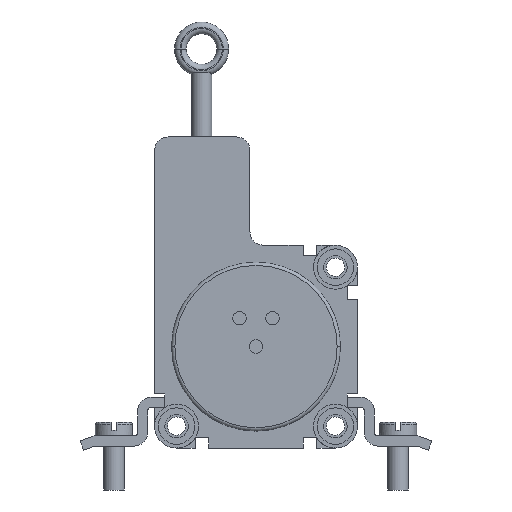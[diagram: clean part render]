
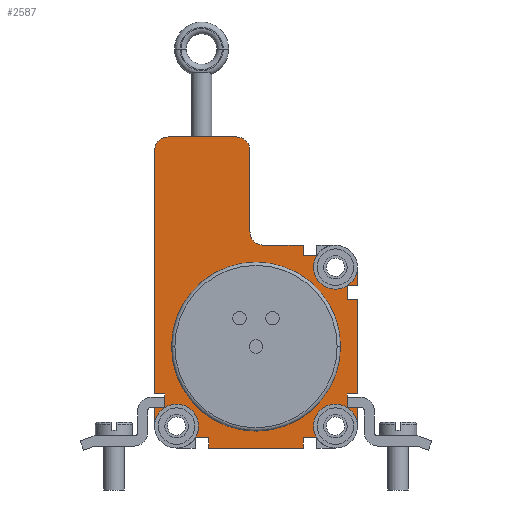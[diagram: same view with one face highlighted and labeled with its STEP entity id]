
A CAD part, left-side view. The second image highlights one B-rep face of the part: STEP entity #2587.
In plain terms, the highlighted planar face has unit normal (-1, 0, 0) as drawn and (0, 0, 1) by its records, which use the part's own axes.
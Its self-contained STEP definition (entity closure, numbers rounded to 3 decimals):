
#2=DIRECTION('',(1.,-0.001,0.));
#3=VECTOR('',#2,2.003);
#4=CARTESIAN_POINT('',(7.,13.5,0.));
#5=LINE('',#4,#3);
#6=CARTESIAN_POINT('',(11.75,11.75,0.));
#7=DIRECTION('',(0.,0.,1.));
#8=DIRECTION('',(-0.843,0.538,0.));
#9=AXIS2_PLACEMENT_3D('',#6,#7,#8);
#11=CARTESIAN_POINT('',(11.75,11.75,0.));
#12=DIRECTION('',(0.,0.,1.));
#13=DIRECTION('',(-1.,0.,0.));
#14=AXIS2_PLACEMENT_3D('',#11,#12,#13);
#16=DIRECTION('',(0.,1.,0.));
#17=VECTOR('',#16,2.75);
#18=CARTESIAN_POINT('',(15.,9.,0.));
#19=LINE('',#18,#17);
#20=DIRECTION('',(-1.,0.,0.));
#21=VECTOR('',#20,1.5);
#22=CARTESIAN_POINT('',(15.,9.,0.));
#23=LINE('',#22,#21);
#24=DIRECTION('',(0.,-1.,0.));
#25=VECTOR('',#24,2.);
#26=CARTESIAN_POINT('',(13.5,9.,0.));
#27=LINE('',#26,#25);
#28=DIRECTION('',(-1.,0.,0.));
#29=VECTOR('',#28,1.5);
#30=CARTESIAN_POINT('',(15.,7.,0.));
#31=LINE('',#30,#29);
#32=DIRECTION('',(0.,1.,0.));
#33=VECTOR('',#32,14.);
#34=CARTESIAN_POINT('',(15.,-7.,0.));
#35=LINE('',#34,#33);
#36=DIRECTION('',(-1.,0.,0.));
#37=VECTOR('',#36,1.5);
#38=CARTESIAN_POINT('',(15.,-7.,0.));
#39=LINE('',#38,#37);
#40=DIRECTION('',(0.,-1.,0.));
#41=VECTOR('',#40,2.);
#42=CARTESIAN_POINT('',(13.5,-7.,0.));
#43=LINE('',#42,#41);
#44=DIRECTION('',(-1.,0.,0.));
#45=VECTOR('',#44,1.5);
#46=CARTESIAN_POINT('',(15.,-9.,0.));
#47=LINE('',#46,#45);
#48=DIRECTION('',(0.,1.,0.));
#49=VECTOR('',#48,2.75);
#50=CARTESIAN_POINT('',(15.,-11.75,0.));
#51=LINE('',#50,#49);
#52=CARTESIAN_POINT('',(11.75,-11.75,0.));
#53=DIRECTION('',(0.,0.,1.));
#54=DIRECTION('',(1.,0.,0.));
#55=AXIS2_PLACEMENT_3D('',#52,#53,#54);
#57=CARTESIAN_POINT('',(11.75,-11.75,0.));
#58=DIRECTION('',(0.,0.,1.));
#59=DIRECTION('',(-1.,0.,0.));
#60=AXIS2_PLACEMENT_3D('',#57,#58,#59);
#62=DIRECTION('',(-1.,-0.001,0.));
#63=VECTOR('',#62,2.003);
#64=CARTESIAN_POINT('',(9.003,-13.497,0.));
#65=LINE('',#64,#63);
#66=DIRECTION('',(0.,1.,0.));
#67=VECTOR('',#66,1.5);
#68=CARTESIAN_POINT('',(7.,-15.,0.));
#69=LINE('',#68,#67);
#70=DIRECTION('',(1.,0.,0.));
#71=VECTOR('',#70,14.);
#72=CARTESIAN_POINT('',(-7.,-15.,0.));
#73=LINE('',#72,#71);
#74=DIRECTION('',(0.,1.,0.));
#75=VECTOR('',#74,1.5);
#76=CARTESIAN_POINT('',(-7.,-15.,0.));
#77=LINE('',#76,#75);
#78=DIRECTION('',(-1.,0.001,0.));
#79=VECTOR('',#78,2.003);
#80=CARTESIAN_POINT('',(-7.,-13.5,0.));
#81=LINE('',#80,#79);
#82=CARTESIAN_POINT('',(-11.75,-11.75,0.));
#83=DIRECTION('',(0.,0.,1.));
#84=DIRECTION('',(0.843,-0.538,0.));
#85=AXIS2_PLACEMENT_3D('',#82,#83,#84);
#87=CARTESIAN_POINT('',(-11.75,-11.75,0.));
#88=DIRECTION('',(0.,0.,1.));
#89=DIRECTION('',(1.,0.,0.));
#90=AXIS2_PLACEMENT_3D('',#87,#88,#89);
#92=DIRECTION('',(0.,-1.,0.));
#93=VECTOR('',#92,2.75);
#94=CARTESIAN_POINT('',(-15.,-9.,0.));
#95=LINE('',#94,#93);
#96=DIRECTION('',(1.,0.,0.));
#97=VECTOR('',#96,1.5);
#98=CARTESIAN_POINT('',(-15.,-9.,0.));
#99=LINE('',#98,#97);
#100=DIRECTION('',(0.,1.,0.));
#101=VECTOR('',#100,2.);
#102=CARTESIAN_POINT('',(-13.5,-9.,0.));
#103=LINE('',#102,#101);
#104=DIRECTION('',(1.,0.,0.));
#105=VECTOR('',#104,1.5);
#106=CARTESIAN_POINT('',(-15.,-7.,0.));
#107=LINE('',#106,#105);
#108=DIRECTION('',(0.,-1.,0.));
#109=VECTOR('',#108,36.);
#110=CARTESIAN_POINT('',(-15.,29.,0.));
#111=LINE('',#110,#109);
#112=CARTESIAN_POINT('',(-13.,29.,0.));
#113=DIRECTION('',(0.,0.,1.));
#114=DIRECTION('',(0.,1.,0.));
#115=AXIS2_PLACEMENT_3D('',#112,#113,#114);
#117=DIRECTION('',(-1.,0.,0.));
#118=VECTOR('',#117,10.1);
#119=CARTESIAN_POINT('',(-2.9,31.,0.));
#120=LINE('',#119,#118);
#121=CARTESIAN_POINT('',(-2.9,29.,0.));
#122=DIRECTION('',(0.,0.,1.));
#123=DIRECTION('',(1.,0.,0.));
#124=AXIS2_PLACEMENT_3D('',#121,#122,#123);
#126=DIRECTION('',(0.,1.,0.));
#127=VECTOR('',#126,12.);
#128=CARTESIAN_POINT('',(-0.9,17.,0.));
#129=LINE('',#128,#127);
#130=DIRECTION('',(-1.,0.,0.));
#131=VECTOR('',#130,5.9);
#132=CARTESIAN_POINT('',(7.,15.,0.));
#133=LINE('',#132,#131);
#134=DIRECTION('',(0.,-1.,0.));
#135=VECTOR('',#134,1.5);
#136=CARTESIAN_POINT('',(7.,15.,0.));
#137=LINE('',#136,#135);
#138=CARTESIAN_POINT('',(0.,0.,0.));
#139=DIRECTION('',(0.,0.,1.));
#140=DIRECTION('',(1.,0.,0.));
#141=AXIS2_PLACEMENT_3D('',#138,#139,#140);
#143=CARTESIAN_POINT('',(0.,0.,0.));
#144=DIRECTION('',(0.,0.,1.));
#145=DIRECTION('',(-1.,0.,0.));
#146=AXIS2_PLACEMENT_3D('',#143,#144,#145);
#165=CARTESIAN_POINT('',(1.1,17.,0.));
#166=DIRECTION('',(0.,0.,-1.));
#167=DIRECTION('',(0.,-1.,0.));
#168=AXIS2_PLACEMENT_3D('',#165,#166,#167);
#1983=CARTESIAN_POINT('',(-0.9,17.,0.));
#1985=VERTEX_POINT('',#1983);
#1987=CARTESIAN_POINT('',(1.1,15.,0.));
#1989=VERTEX_POINT('',#1987);
#1994=CARTESIAN_POINT('',(-0.9,29.,0.));
#1995=VERTEX_POINT('',#1994);
#1996=CARTESIAN_POINT('',(-2.9,31.,0.));
#1997=VERTEX_POINT('',#1996);
#2002=CARTESIAN_POINT('',(-13.,31.,0.));
#2003=VERTEX_POINT('',#2002);
#2004=CARTESIAN_POINT('',(-15.,29.,0.));
#2005=VERTEX_POINT('',#2004);
#2042=CARTESIAN_POINT('',(12.,0.,0.));
#2043=CARTESIAN_POINT('',(-12.,0.,0.));
#2044=VERTEX_POINT('',#2042);
#2045=VERTEX_POINT('',#2043);
#2058=CARTESIAN_POINT('',(8.5,11.75,0.));
#2059=CARTESIAN_POINT('',(15.,11.75,0.));
#2060=VERTEX_POINT('',#2058);
#2061=VERTEX_POINT('',#2059);
#2062=CARTESIAN_POINT('',(15.,-11.75,0.));
#2063=CARTESIAN_POINT('',(8.5,-11.75,0.));
#2064=VERTEX_POINT('',#2062);
#2065=VERTEX_POINT('',#2063);
#2066=CARTESIAN_POINT('',(-8.5,-11.75,0.));
#2067=CARTESIAN_POINT('',(-15.,-11.75,0.));
#2068=VERTEX_POINT('',#2066);
#2069=VERTEX_POINT('',#2067);
#2112=CARTESIAN_POINT('',(7.,15.,0.));
#2113=CARTESIAN_POINT('',(7.,13.5,0.));
#2114=VERTEX_POINT('',#2112);
#2115=VERTEX_POINT('',#2113);
#2116=CARTESIAN_POINT('',(9.003,13.497,0.));
#2117=VERTEX_POINT('',#2116);
#2121=CARTESIAN_POINT('',(9.003,-13.497,0.));
#2123=VERTEX_POINT('',#2121);
#2124=CARTESIAN_POINT('',(7.,-13.5,0.));
#2125=VERTEX_POINT('',#2124);
#2126=CARTESIAN_POINT('',(7.,-15.,0.));
#2127=VERTEX_POINT('',#2126);
#2128=CARTESIAN_POINT('',(-7.,-15.,0.));
#2129=CARTESIAN_POINT('',(-7.,-13.5,0.));
#2130=VERTEX_POINT('',#2128);
#2131=VERTEX_POINT('',#2129);
#2132=CARTESIAN_POINT('',(-9.003,-13.497,0.));
#2133=VERTEX_POINT('',#2132);
#2136=CARTESIAN_POINT('',(15.,9.,0.));
#2137=CARTESIAN_POINT('',(13.5,9.,0.));
#2138=VERTEX_POINT('',#2136);
#2139=VERTEX_POINT('',#2137);
#2140=CARTESIAN_POINT('',(13.5,7.,0.));
#2141=VERTEX_POINT('',#2140);
#2142=CARTESIAN_POINT('',(15.,7.,0.));
#2143=VERTEX_POINT('',#2142);
#2144=CARTESIAN_POINT('',(-15.,-9.,0.));
#2145=CARTESIAN_POINT('',(-13.5,-9.,0.));
#2146=VERTEX_POINT('',#2144);
#2147=VERTEX_POINT('',#2145);
#2148=CARTESIAN_POINT('',(-13.5,-7.,0.));
#2149=VERTEX_POINT('',#2148);
#2150=CARTESIAN_POINT('',(-15.,-7.,0.));
#2151=VERTEX_POINT('',#2150);
#2152=CARTESIAN_POINT('',(15.,-7.,0.));
#2153=CARTESIAN_POINT('',(13.5,-7.,0.));
#2154=VERTEX_POINT('',#2152);
#2155=VERTEX_POINT('',#2153);
#2156=CARTESIAN_POINT('',(13.5,-9.,0.));
#2157=VERTEX_POINT('',#2156);
#2158=CARTESIAN_POINT('',(15.,-9.,0.));
#2159=VERTEX_POINT('',#2158);
#2508=CARTESIAN_POINT('',(0.,0.,0.));
#2509=DIRECTION('',(0.,0.,1.));
#2510=DIRECTION('',(1.,0.,0.));
#2511=AXIS2_PLACEMENT_3D('',#2508,#2509,#2510);
#2512=PLANE('',#2511);
#2514=ORIENTED_EDGE('',*,*,#2513,.T.);
#2516=ORIENTED_EDGE('',*,*,#2515,.T.);
#2518=ORIENTED_EDGE('',*,*,#2517,.T.);
#2520=ORIENTED_EDGE('',*,*,#2519,.F.);
#2522=ORIENTED_EDGE('',*,*,#2521,.T.);
#2524=ORIENTED_EDGE('',*,*,#2523,.T.);
#2526=ORIENTED_EDGE('',*,*,#2525,.F.);
#2528=ORIENTED_EDGE('',*,*,#2527,.F.);
#2530=ORIENTED_EDGE('',*,*,#2529,.T.);
#2532=ORIENTED_EDGE('',*,*,#2531,.T.);
#2534=ORIENTED_EDGE('',*,*,#2533,.F.);
#2536=ORIENTED_EDGE('',*,*,#2535,.F.);
#2538=ORIENTED_EDGE('',*,*,#2537,.T.);
#2540=ORIENTED_EDGE('',*,*,#2539,.T.);
#2542=ORIENTED_EDGE('',*,*,#2541,.T.);
#2544=ORIENTED_EDGE('',*,*,#2543,.F.);
#2546=ORIENTED_EDGE('',*,*,#2545,.F.);
#2548=ORIENTED_EDGE('',*,*,#2547,.T.);
#2550=ORIENTED_EDGE('',*,*,#2549,.T.);
#2552=ORIENTED_EDGE('',*,*,#2551,.T.);
#2554=ORIENTED_EDGE('',*,*,#2553,.T.);
#2556=ORIENTED_EDGE('',*,*,#2555,.F.);
#2558=ORIENTED_EDGE('',*,*,#2557,.T.);
#2560=ORIENTED_EDGE('',*,*,#2559,.T.);
#2562=ORIENTED_EDGE('',*,*,#2561,.F.);
#2564=ORIENTED_EDGE('',*,*,#2563,.F.);
#2566=ORIENTED_EDGE('',*,*,#2565,.F.);
#2568=ORIENTED_EDGE('',*,*,#2567,.F.);
#2570=ORIENTED_EDGE('',*,*,#2569,.F.);
#2572=ORIENTED_EDGE('',*,*,#2571,.F.);
#2574=ORIENTED_EDGE('',*,*,#2573,.F.);
#2576=ORIENTED_EDGE('',*,*,#2575,.F.);
#2578=ORIENTED_EDGE('',*,*,#2577,.T.);
#2579=EDGE_LOOP('',(#2514,#2516,#2518,#2520,#2522,#2524,#2526,#2528,#2530,#2532,
#2534,#2536,#2538,#2540,#2542,#2544,#2546,#2548,#2550,#2552,#2554,#2556,#2558,
#2560,#2562,#2564,#2566,#2568,#2570,#2572,#2574,#2576,#2578));
#2580=FACE_OUTER_BOUND('',#2579,.F.);
#2582=ORIENTED_EDGE('',*,*,#2581,.T.);
#2584=ORIENTED_EDGE('',*,*,#2583,.T.);
#2585=EDGE_LOOP('',(#2582,#2584));
#2586=FACE_BOUND('',#2585,.F.);
#2587=ADVANCED_FACE('',(#2580,#2586),#2512,.T.);
#10=CIRCLE('',#9,3.25);
#15=CIRCLE('',#14,3.25);
#56=CIRCLE('',#55,3.25);
#61=CIRCLE('',#60,3.25);
#86=CIRCLE('',#85,3.25);
#91=CIRCLE('',#90,3.25);
#116=CIRCLE('',#115,2.);
#125=CIRCLE('',#124,2.);
#142=CIRCLE('',#141,12.);
#147=CIRCLE('',#146,12.);
#169=CIRCLE('',#168,2.);
#2513=EDGE_CURVE('',#2115,#2117,#5,.T.);
#2515=EDGE_CURVE('',#2117,#2060,#10,.T.);
#2517=EDGE_CURVE('',#2060,#2061,#15,.T.);
#2519=EDGE_CURVE('',#2138,#2061,#19,.T.);
#2521=EDGE_CURVE('',#2138,#2139,#23,.T.);
#2523=EDGE_CURVE('',#2139,#2141,#27,.T.);
#2525=EDGE_CURVE('',#2143,#2141,#31,.T.);
#2527=EDGE_CURVE('',#2154,#2143,#35,.T.);
#2529=EDGE_CURVE('',#2154,#2155,#39,.T.);
#2531=EDGE_CURVE('',#2155,#2157,#43,.T.);
#2533=EDGE_CURVE('',#2159,#2157,#47,.T.);
#2535=EDGE_CURVE('',#2064,#2159,#51,.T.);
#2537=EDGE_CURVE('',#2064,#2065,#56,.T.);
#2539=EDGE_CURVE('',#2065,#2123,#61,.T.);
#2541=EDGE_CURVE('',#2123,#2125,#65,.T.);
#2543=EDGE_CURVE('',#2127,#2125,#69,.T.);
#2545=EDGE_CURVE('',#2130,#2127,#73,.T.);
#2547=EDGE_CURVE('',#2130,#2131,#77,.T.);
#2549=EDGE_CURVE('',#2131,#2133,#81,.T.);
#2551=EDGE_CURVE('',#2133,#2068,#86,.T.);
#2553=EDGE_CURVE('',#2068,#2069,#91,.T.);
#2555=EDGE_CURVE('',#2146,#2069,#95,.T.);
#2557=EDGE_CURVE('',#2146,#2147,#99,.T.);
#2559=EDGE_CURVE('',#2147,#2149,#103,.T.);
#2561=EDGE_CURVE('',#2151,#2149,#107,.T.);
#2563=EDGE_CURVE('',#2005,#2151,#111,.T.);
#2565=EDGE_CURVE('',#2003,#2005,#116,.T.);
#2567=EDGE_CURVE('',#1997,#2003,#120,.T.);
#2569=EDGE_CURVE('',#1995,#1997,#125,.T.);
#2571=EDGE_CURVE('',#1985,#1995,#129,.T.);
#2573=EDGE_CURVE('',#1989,#1985,#169,.T.);
#2575=EDGE_CURVE('',#2114,#1989,#133,.T.);
#2577=EDGE_CURVE('',#2114,#2115,#137,.T.);
#2581=EDGE_CURVE('',#2044,#2045,#142,.T.);
#2583=EDGE_CURVE('',#2045,#2044,#147,.T.);
